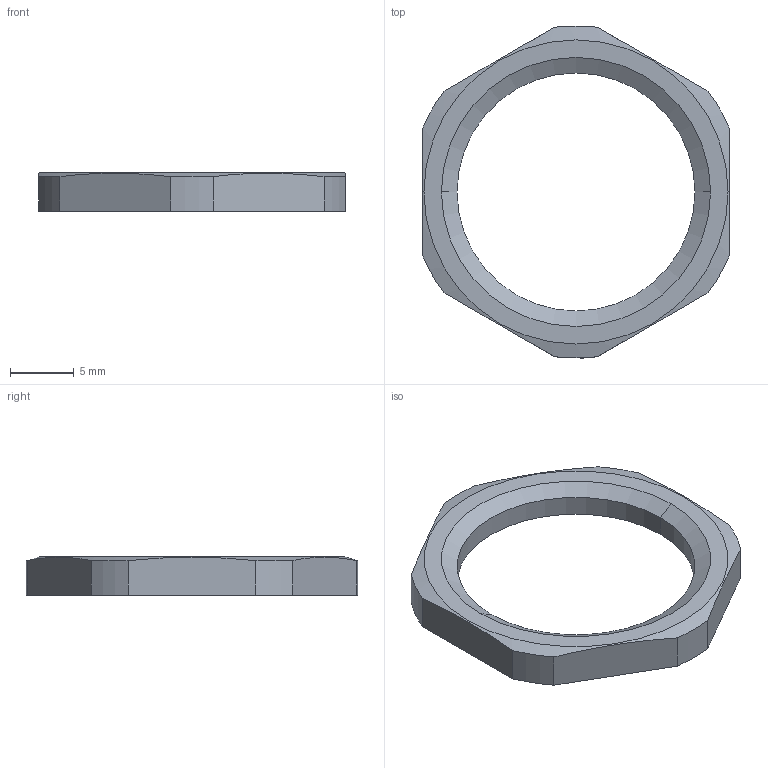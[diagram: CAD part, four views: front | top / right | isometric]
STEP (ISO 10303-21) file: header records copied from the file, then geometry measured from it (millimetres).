
FILE_DESCRIPTION (( 'STEP AP203' ), '1' );
FILE_NAME ('212 M.STEP', '2006-10-27T06:46:02', ( ' ' ), ( '' ), 'SwSTEP 2.0', 'SolidWorks 2005278', '' );
FILE_SCHEMA (( 'CONFIG_CONTROL_DESIGN' ));
Length unit declared in the file: millimetre
Products named in the file (1): 212 M
Bounding box: 24 x 25.98 x 3 mm (x, y, z)
Volume: 596.5 mm3; surface area: 784.8 mm2
Topology: 1 solids, 1 shells, 59 faces, 158 edges, 104 vertices
Faces by surface type: plane 45, cylinder 8, cone 6
Entity records: 1915 total; most frequent: CARTESIAN_POINT 350, ORIENTED_EDGE 316, DIRECTION 292, EDGE_CURVE 158, VECTOR 128, LINE 128, VERTEX_POINT 104, AXIS2_PLACEMENT_3D 82
